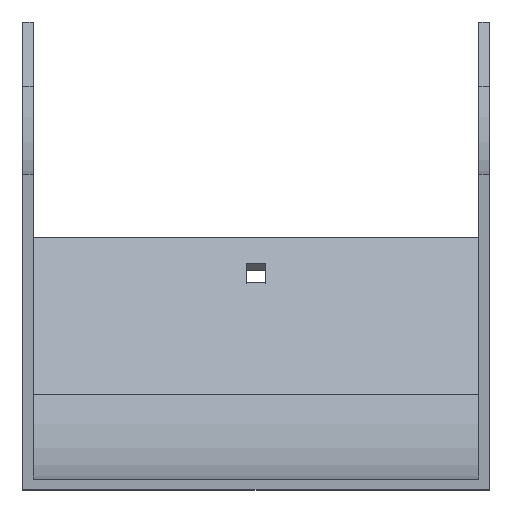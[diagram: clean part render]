
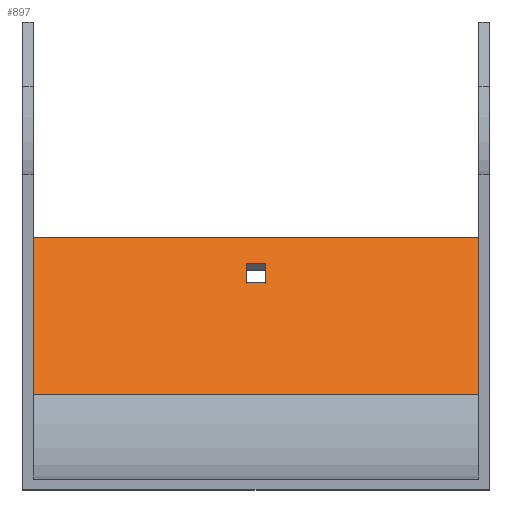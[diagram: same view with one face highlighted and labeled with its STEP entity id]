
A CAD part, top view. The second image highlights one B-rep face of the part: STEP entity #897.
In plain terms, the highlighted planar face has unit normal (0, 0.707, 0.707).
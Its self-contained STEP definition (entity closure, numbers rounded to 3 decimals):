
#18 = DIRECTION ( 'NONE',  ( 0., -0.707, 0.707 ) ) ;
#26 = CARTESIAN_POINT ( 'NONE',  ( -3.25, -29.047, -184.503 ) ) ;
#31 = VECTOR ( 'NONE', #1821, 1000. ) ;
#73 = LINE ( 'NONE', #1728, #950 ) ;
#131 = CARTESIAN_POINT ( 'NONE',  ( 77., -20.562, -192.988 ) ) ;
#137 = LINE ( 'NONE', #737, #1946 ) ;
#153 = VECTOR ( 'NONE', #1812, 1000. ) ;
#154 = CARTESIAN_POINT ( 'NONE',  ( -3.25, -35.411, -178.139 ) ) ;
#157 = VECTOR ( 'NONE', #333, 1000. ) ;
#260 = VERTEX_POINT ( 'NONE', #1384 ) ;
#264 = VECTOR ( 'NONE', #1536, 1000. ) ;
#296 = CARTESIAN_POINT ( 'NONE',  ( -73.5, -20.562, -192.988 ) ) ;
#305 = ORIENTED_EDGE ( 'NONE', *, *, #1242, .T. ) ;
#308 = EDGE_CURVE ( 'NONE', #910, #1456, #1838, .T. ) ;
#319 = FACE_BOUND ( 'NONE', #396, .T. ) ;
#333 = DIRECTION ( 'NONE',  ( 0., -0.707, 0.707 ) ) ;
#348 = DIRECTION ( 'NONE',  ( 0., 0.707, -0.707 ) ) ;
#361 = VERTEX_POINT ( 'NONE', #506 ) ;
#378 = DIRECTION ( 'NONE',  ( 0., 0.707, -0.707 ) ) ;
#396 = EDGE_LOOP ( 'NONE', ( #1829, #792, #1929, #305 ) ) ;
#487 = LINE ( 'NONE', #909, #157 ) ;
#504 = EDGE_LOOP ( 'NONE', ( #1779, #904, #1178, #642 ) ) ;
#506 = CARTESIAN_POINT ( 'NONE',  ( 3.25, -29.047, -184.503 ) ) ;
#544 = EDGE_CURVE ( 'NONE', #644, #910, #137, .T. ) ;
#602 = LINE ( 'NONE', #1050, #31 ) ;
#642 = ORIENTED_EDGE ( 'NONE', *, *, #308, .T. ) ;
#644 = VERTEX_POINT ( 'NONE', #802 ) ;
#737 = CARTESIAN_POINT ( 'NONE',  ( 73.5, -20.562, -192.988 ) ) ;
#754 = DIRECTION ( 'NONE',  ( -1., 0., 0. ) ) ;
#769 = DIRECTION ( 'NONE',  ( 0., 0.707, 0.707 ) ) ;
#787 = LINE ( 'NONE', #1113, #911 ) ;
#792 = ORIENTED_EDGE ( 'NONE', *, *, #1703, .T. ) ;
#802 = CARTESIAN_POINT ( 'NONE',  ( 73.5, -72.236, -141.314 ) ) ;
#863 = EDGE_CURVE ( 'NONE', #644, #884, #602, .T. ) ;
#884 = VERTEX_POINT ( 'NONE', #1942 ) ;
#889 = FACE_OUTER_BOUND ( 'NONE', #504, .T. ) ;
#897 = ADVANCED_FACE ( 'NONE', ( #889, #319 ), #1487, .T. ) ;
#904 = ORIENTED_EDGE ( 'NONE', *, *, #863, .F. ) ;
#909 = CARTESIAN_POINT ( 'NONE',  ( 3.25, -35.411, -178.139 ) ) ;
#910 = VERTEX_POINT ( 'NONE', #1217 ) ;
#911 = VECTOR ( 'NONE', #348, 1000. ) ;
#932 = VERTEX_POINT ( 'NONE', #1951 ) ;
#950 = VECTOR ( 'NONE', #378, 1000. ) ;
#986 = VECTOR ( 'NONE', #754, 1000. ) ;
#1009 = EDGE_CURVE ( 'NONE', #932, #361, #1082, .T. ) ;
#1050 = CARTESIAN_POINT ( 'NONE',  ( 77., -72.236, -141.314 ) ) ;
#1076 = CARTESIAN_POINT ( 'NONE',  ( -3.25, -35.411, -178.139 ) ) ;
#1082 = LINE ( 'NONE', #26, #264 ) ;
#1089 = EDGE_CURVE ( 'NONE', #884, #1456, #787, .T. ) ;
#1113 = CARTESIAN_POINT ( 'NONE',  ( -73.5, -20.562, -192.988 ) ) ;
#1178 = ORIENTED_EDGE ( 'NONE', *, *, #544, .T. ) ;
#1200 = AXIS2_PLACEMENT_3D ( 'NONE', #131, #769, #18 ) ;
#1217 = CARTESIAN_POINT ( 'NONE',  ( 73.5, -20.562, -192.988 ) ) ;
#1242 = EDGE_CURVE ( 'NONE', #361, #260, #487, .T. ) ;
#1277 = VERTEX_POINT ( 'NONE', #154 ) ;
#1340 = DIRECTION ( 'NONE',  ( 0., 0.707, -0.707 ) ) ;
#1384 = CARTESIAN_POINT ( 'NONE',  ( 3.25, -35.411, -178.139 ) ) ;
#1456 = VERTEX_POINT ( 'NONE', #296 ) ;
#1487 = PLANE ( 'NONE',  #1200 ) ;
#1536 = DIRECTION ( 'NONE',  ( 1., 0., 0. ) ) ;
#1553 = CARTESIAN_POINT ( 'NONE',  ( 77., -20.562, -192.988 ) ) ;
#1597 = EDGE_CURVE ( 'NONE', #260, #1277, #1825, .T. ) ;
#1703 = EDGE_CURVE ( 'NONE', #1277, #932, #73, .T. ) ;
#1728 = CARTESIAN_POINT ( 'NONE',  ( -3.25, -35.411, -178.139 ) ) ;
#1779 = ORIENTED_EDGE ( 'NONE', *, *, #1089, .F. ) ;
#1812 = DIRECTION ( 'NONE',  ( -1., 0., 0. ) ) ;
#1821 = DIRECTION ( 'NONE',  ( -1., 0., 0. ) ) ;
#1825 = LINE ( 'NONE', #1076, #986 ) ;
#1829 = ORIENTED_EDGE ( 'NONE', *, *, #1597, .T. ) ;
#1838 = LINE ( 'NONE', #1553, #153 ) ;
#1929 = ORIENTED_EDGE ( 'NONE', *, *, #1009, .T. ) ;
#1942 = CARTESIAN_POINT ( 'NONE',  ( -73.5, -72.236, -141.314 ) ) ;
#1946 = VECTOR ( 'NONE', #1340, 1000. ) ;
#1951 = CARTESIAN_POINT ( 'NONE',  ( -3.25, -29.047, -184.503 ) ) ;
